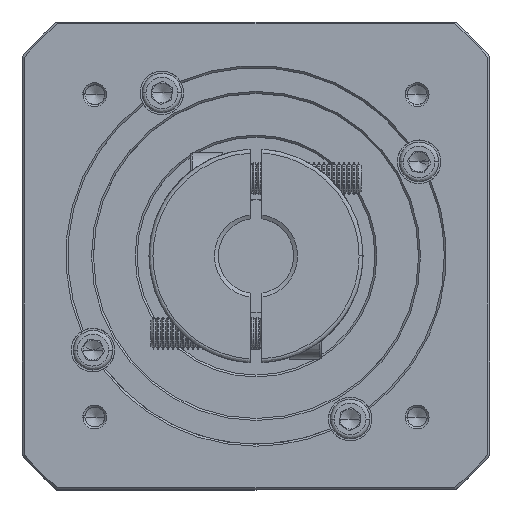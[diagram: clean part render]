
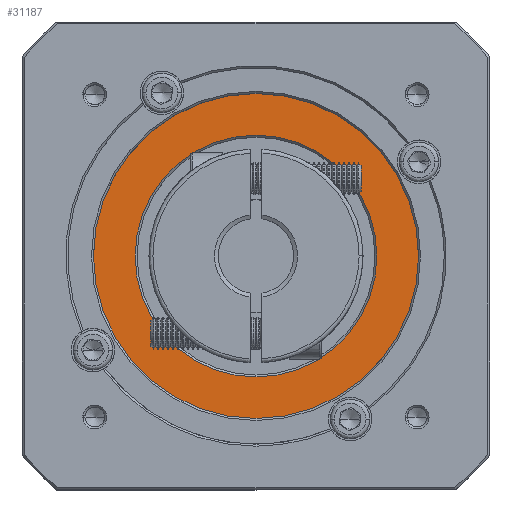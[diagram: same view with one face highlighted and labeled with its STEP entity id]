
A CAD part, top view. The second image highlights one B-rep face of the part: STEP entity #31187.
In plain terms, the highlighted planar face has unit normal (0, 0, 1).
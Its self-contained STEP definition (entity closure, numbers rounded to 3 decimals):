
#374 = ORIENTED_EDGE ( 'NONE', *, *, #7698, .T. ) ;
#7698 = EDGE_CURVE ( 'NONE', #11603, #81202, #135586, .T. ) ;
#8446 = CARTESIAN_POINT ( 'NONE',  ( -65.746, -1.416, 219.502 ) ) ;
#8945 = CIRCLE ( 'NONE', #52052, 41. ) ;
#11603 = VERTEX_POINT ( 'NONE', #103927 ) ;
#12053 = AXIS2_PLACEMENT_3D ( 'NONE', #120015, #88383, #68108 ) ;
#18759 = FACE_OUTER_BOUND ( 'NONE', #129202, .T. ) ;
#20421 = ORIENTED_EDGE ( 'NONE', *, *, #109892, .T. ) ;
#21975 = CARTESIAN_POINT ( 'NONE',  ( -76.246, -1.416, 219.502 ) ) ;
#31060 = DIRECTION ( 'NONE',  ( 0., 0., -1. ) ) ;
#31187 = ADVANCED_FACE ( 'NONE', ( #18759, #35116 ), #79163, .T. ) ;
#32914 = CARTESIAN_POINT ( 'NONE',  ( -35.246, -1.416, 219.502 ) ) ;
#33314 = VERTEX_POINT ( 'NONE', #8446 ) ;
#35116 = FACE_BOUND ( 'NONE', #115667, .T. ) ;
#37501 = CARTESIAN_POINT ( 'NONE',  ( -35.246, -1.416, 219.502 ) ) ;
#43581 = CIRCLE ( 'NONE', #121159, 30.5 ) ;
#47109 = VERTEX_POINT ( 'NONE', #131484 ) ;
#50599 = CIRCLE ( 'NONE', #70773, 30.5 ) ;
#51090 = EDGE_CURVE ( 'NONE', #47109, #33314, #43581, .T. ) ;
#52052 = AXIS2_PLACEMENT_3D ( 'NONE', #58925, #69894, #69450 ) ;
#58925 = CARTESIAN_POINT ( 'NONE',  ( -35.246, -1.416, 219.502 ) ) ;
#68108 = DIRECTION ( 'NONE',  ( 1., 0., 0. ) ) ;
#69450 = DIRECTION ( 'NONE',  ( 1., 0., 0. ) ) ;
#69894 = DIRECTION ( 'NONE',  ( 0., 0., 1. ) ) ;
#70195 = DIRECTION ( 'NONE',  ( 1., 0., 0. ) ) ;
#70661 = CARTESIAN_POINT ( 'NONE',  ( -35.246, -1.416, 219.502 ) ) ;
#70773 = AXIS2_PLACEMENT_3D ( 'NONE', #32914, #31060, #126182 ) ;
#71564 = DIRECTION ( 'NONE',  ( 0., 0., -1. ) ) ;
#79163 = PLANE ( 'NONE',  #12053 ) ;
#81202 = VERTEX_POINT ( 'NONE', #21975 ) ;
#88383 = DIRECTION ( 'NONE',  ( 0., 0., 1. ) ) ;
#93029 = AXIS2_PLACEMENT_3D ( 'NONE', #37501, #114329, #103771 ) ;
#103771 = DIRECTION ( 'NONE',  ( 1., 0., 0. ) ) ;
#103927 = CARTESIAN_POINT ( 'NONE',  ( 5.754, -1.416, 219.502 ) ) ;
#108572 = ORIENTED_EDGE ( 'NONE', *, *, #51090, .T. ) ;
#109892 = EDGE_CURVE ( 'NONE', #33314, #47109, #50599, .T. ) ;
#114329 = DIRECTION ( 'NONE',  ( 0., 0., 1. ) ) ;
#115667 = EDGE_LOOP ( 'NONE', ( #108572, #20421 ) ) ;
#120015 = CARTESIAN_POINT ( 'NONE',  ( -35.246, -1.416, 219.502 ) ) ;
#120400 = ORIENTED_EDGE ( 'NONE', *, *, #135752, .T. ) ;
#121159 = AXIS2_PLACEMENT_3D ( 'NONE', #70661, #71564, #70195 ) ;
#126182 = DIRECTION ( 'NONE',  ( 1., 0., 0. ) ) ;
#129202 = EDGE_LOOP ( 'NONE', ( #374, #120400 ) ) ;
#131484 = CARTESIAN_POINT ( 'NONE',  ( -4.746, -1.416, 219.502 ) ) ;
#135586 = CIRCLE ( 'NONE', #93029, 41. ) ;
#135752 = EDGE_CURVE ( 'NONE', #81202, #11603, #8945, .T. ) ;
